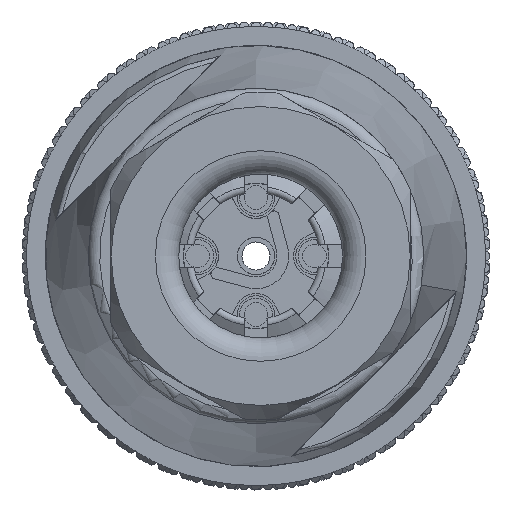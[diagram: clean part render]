
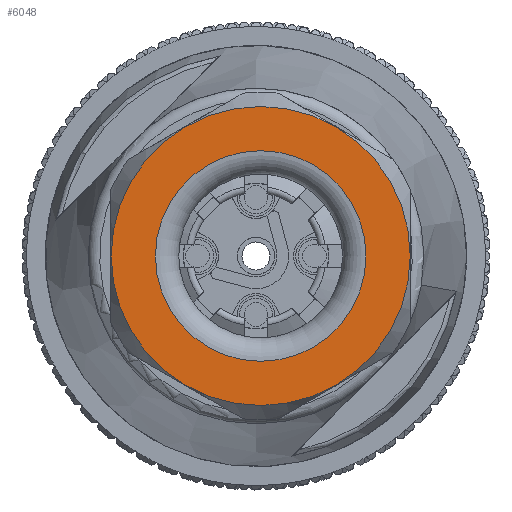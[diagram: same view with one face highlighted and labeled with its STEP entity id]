
A CAD part, front view. The second image highlights one B-rep face of the part: STEP entity #6048.
In plain terms, the highlighted planar face has unit normal (0, -1, 0).
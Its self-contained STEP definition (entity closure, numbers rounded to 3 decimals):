
#900=PLANE('',#22024);
#6048=ADVANCED_FACE('',(#6786,#6787),#900,.F.);
#6786=FACE_BOUND('',#8076,.T.);
#6787=FACE_BOUND('',#8077,.T.);
#8076=EDGE_LOOP('',(#13403));
#8077=EDGE_LOOP('',(#13404));
#13403=ORIENTED_EDGE('',*,*,#18574,.T.);
#13404=ORIENTED_EDGE('',*,*,#18575,.T.);
#15761=VERTEX_POINT('',#54041);
#15762=VERTEX_POINT('',#54043);
#18574=EDGE_CURVE('',#15761,#15761,#19915,.T.);
#18575=EDGE_CURVE('',#15762,#15762,#19916,.T.);
#19915=CIRCLE('',#22022,4.5);
#19916=CIRCLE('',#22023,6.39);
#22022=AXIS2_PLACEMENT_3D('',#54040,#27193,#27194);
#22023=AXIS2_PLACEMENT_3D('',#54042,#27195,#27196);
#22024=AXIS2_PLACEMENT_3D('',#54044,#27197,#27198);
#27193=DIRECTION('',(0.,1.,0.));
#27194=DIRECTION('',(1.,0.,0.));
#27195=DIRECTION('',(0.,-1.,0.));
#27196=DIRECTION('',(-1.,0.,0.));
#27197=DIRECTION('',(0.,1.,0.));
#27198=DIRECTION('',(-1.,0.,0.));
#54040=CARTESIAN_POINT('',(0.2,-51.175,0.));
#54041=CARTESIAN_POINT('',(4.7,-51.175,0.));
#54042=CARTESIAN_POINT('',(0.2,-51.175,0.));
#54043=CARTESIAN_POINT('',(-6.19,-51.175,0.));
#54044=CARTESIAN_POINT('',(0.2,-51.175,0.));
